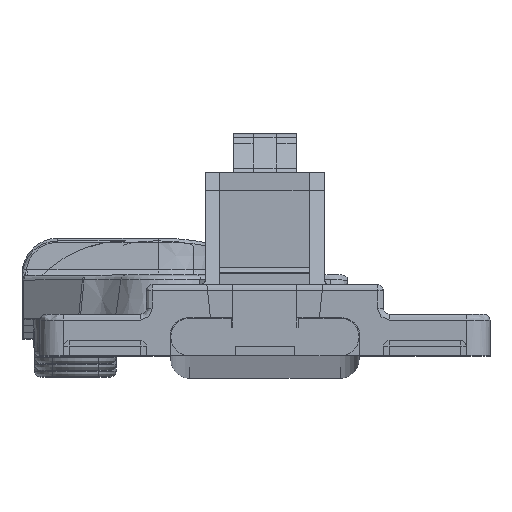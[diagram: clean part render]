
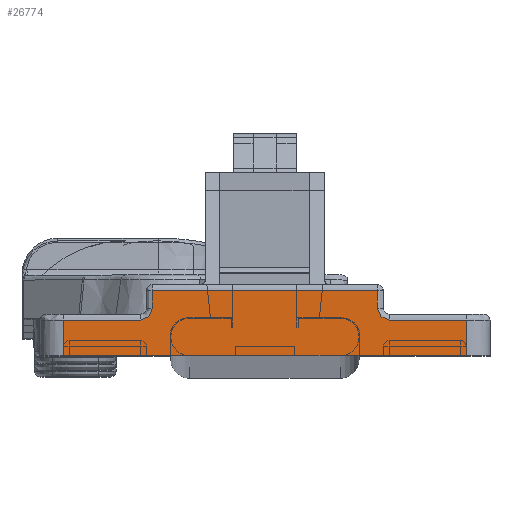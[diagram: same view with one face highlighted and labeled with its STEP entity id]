
A CAD part, top view. The second image highlights one B-rep face of the part: STEP entity #26774.
In plain terms, the highlighted planar face has unit normal (0, 0, 1).
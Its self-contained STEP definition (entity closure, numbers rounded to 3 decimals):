
#3909=FACE_OUTER_BOUND('',#5406,.T.);
#5406=EDGE_LOOP('',(#24267,#24268,#24269,#24270,#24271,#24272,#24273,#24274,
#24275,#24276));
#6212=B_SPLINE_CURVE_WITH_KNOTS('',5,(#57900,#57901,#57902,#57903,#57904,
#57905),.UNSPECIFIED.,.F.,.F.,(6,6),(0.,1.),
 .UNSPECIFIED.);
#6216=B_SPLINE_CURVE_WITH_KNOTS('',5,(#58065,#58066,#58067,#58068,#58069,
#58070),.UNSPECIFIED.,.F.,.F.,(6,6),(0.,1.),
 .UNSPECIFIED.);
#8098=LINE('',#57834,#10080);
#8105=LINE('',#57909,#10087);
#8109=LINE('',#58055,#10091);
#8110=LINE('',#58057,#10092);
#8111=LINE('',#58058,#10093);
#8112=LINE('',#58060,#10094);
#8113=LINE('',#58062,#10095);
#8114=LINE('',#58064,#10096);
#10080=VECTOR('',#34740,3.);
#10087=VECTOR('',#34767,6.5);
#10091=VECTOR('',#34787,6.5);
#10092=VECTOR('',#34788,3.);
#10093=VECTOR('',#34789,34.);
#10094=VECTOR('',#34790,1.5);
#10095=VECTOR('',#34791,19.);
#10096=VECTOR('',#34792,1.5);
#13296=VERTEX_POINT('',#57826);
#13297=VERTEX_POINT('',#57833);
#13306=VERTEX_POINT('',#57898);
#13307=VERTEX_POINT('',#57899);
#13314=VERTEX_POINT('',#58053);
#13315=VERTEX_POINT('',#58054);
#13316=VERTEX_POINT('',#58056);
#13317=VERTEX_POINT('',#58059);
#13318=VERTEX_POINT('',#58061);
#13319=VERTEX_POINT('',#58063);
#17005=EDGE_CURVE('',#13296,#13297,#8098,.T.);
#17017=EDGE_CURVE('',#13306,#13307,#6212,.T.);
#17020=EDGE_CURVE('',#13296,#13306,#8105,.T.);
#17033=EDGE_CURVE('',#13314,#13315,#8109,.T.);
#17034=EDGE_CURVE('',#13316,#13315,#8110,.T.);
#17035=EDGE_CURVE('',#13297,#13316,#8111,.T.);
#17036=EDGE_CURVE('',#13307,#13317,#8112,.T.);
#17037=EDGE_CURVE('',#13318,#13317,#8113,.T.);
#17038=EDGE_CURVE('',#13318,#13319,#8114,.T.);
#17039=EDGE_CURVE('',#13319,#13314,#6216,.T.);
#24267=ORIENTED_EDGE('',*,*,#17033,.T.);
#24268=ORIENTED_EDGE('',*,*,#17034,.F.);
#24269=ORIENTED_EDGE('',*,*,#17035,.F.);
#24270=ORIENTED_EDGE('',*,*,#17005,.F.);
#24271=ORIENTED_EDGE('',*,*,#17020,.T.);
#24272=ORIENTED_EDGE('',*,*,#17017,.T.);
#24273=ORIENTED_EDGE('',*,*,#17036,.T.);
#24274=ORIENTED_EDGE('',*,*,#17037,.F.);
#24275=ORIENTED_EDGE('',*,*,#17038,.T.);
#24276=ORIENTED_EDGE('',*,*,#17039,.T.);
#25398=PLANE('',#28841);
#26774=ADVANCED_FACE('',(#3909),#25398,.F.);
#28841=AXIS2_PLACEMENT_3D('',#58052,#34785,#34786);
#34740=DIRECTION('',(0.,-1.,0.));
#34767=DIRECTION('',(-1.,0.,0.));
#34785=DIRECTION('center_axis',(0.,0.,
-1.));
#34786=DIRECTION('ref_axis',(0.,-1.,0.));
#34787=DIRECTION('',(-1.,0.,0.));
#34788=DIRECTION('',(0.,1.,0.));
#34789=DIRECTION('',(-1.,0.,0.));
#34790=DIRECTION('',(0.,1.,0.));
#34791=DIRECTION('',(1.,0.,0.));
#34792=DIRECTION('',(0.,-1.,0.));
#57826=CARTESIAN_POINT('',(4.457,25.367,497.5));
#57833=CARTESIAN_POINT('',(4.457,22.367,497.5));
#57834=CARTESIAN_POINT('',(4.457,25.367,497.5));
#57898=CARTESIAN_POINT('',(-2.043,25.367,497.5));
#57899=CARTESIAN_POINT('',(-3.043,26.367,497.5));
#57900=CARTESIAN_POINT('Ctrl Pts',(-2.043,25.367,497.5));
#57901=CARTESIAN_POINT('Ctrl Pts',(-2.357,25.367,497.5));
#57902=CARTESIAN_POINT('Ctrl Pts',(-2.672,25.49,497.5));
#57903=CARTESIAN_POINT('Ctrl Pts',(-2.92,25.738,497.5));
#57904=CARTESIAN_POINT('Ctrl Pts',(-3.043,26.053,497.5));
#57905=CARTESIAN_POINT('Ctrl Pts',(-3.043,26.367,497.5));
#57909=CARTESIAN_POINT('',(4.457,25.367,497.5));
#58052=CARTESIAN_POINT('Origin',(-12.543,22.367,497.5));
#58053=CARTESIAN_POINT('',(-23.043,25.367,497.5));
#58054=CARTESIAN_POINT('',(-29.543,25.367,497.5));
#58055=CARTESIAN_POINT('',(-23.043,25.367,497.5));
#58056=CARTESIAN_POINT('',(-29.543,22.367,497.5));
#58057=CARTESIAN_POINT('',(-29.543,22.367,497.5));
#58058=CARTESIAN_POINT('',(4.457,22.367,497.5));
#58059=CARTESIAN_POINT('',(-3.043,27.867,497.5));
#58060=CARTESIAN_POINT('',(-3.043,26.367,497.5));
#58061=CARTESIAN_POINT('',(-22.043,27.867,497.5));
#58062=CARTESIAN_POINT('',(-22.043,27.867,497.5));
#58063=CARTESIAN_POINT('',(-22.043,26.367,497.5));
#58064=CARTESIAN_POINT('',(-22.043,27.867,497.5));
#58065=CARTESIAN_POINT('Ctrl Pts',(-22.043,26.367,497.5));
#58066=CARTESIAN_POINT('Ctrl Pts',(-22.043,26.053,497.5));
#58067=CARTESIAN_POINT('Ctrl Pts',(-22.166,25.738,497.5));
#58068=CARTESIAN_POINT('Ctrl Pts',(-22.415,25.49,497.5));
#58069=CARTESIAN_POINT('Ctrl Pts',(-22.729,25.367,497.5));
#58070=CARTESIAN_POINT('Ctrl Pts',(-23.043,25.367,497.5));
